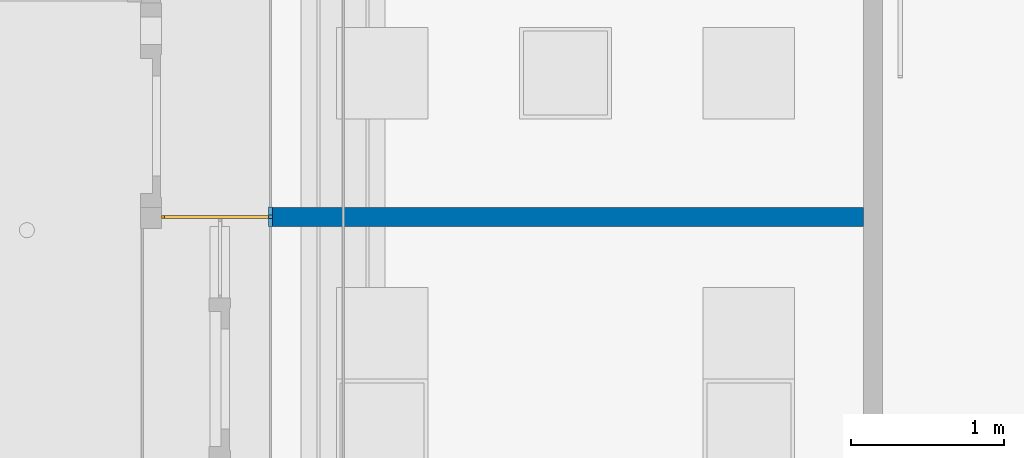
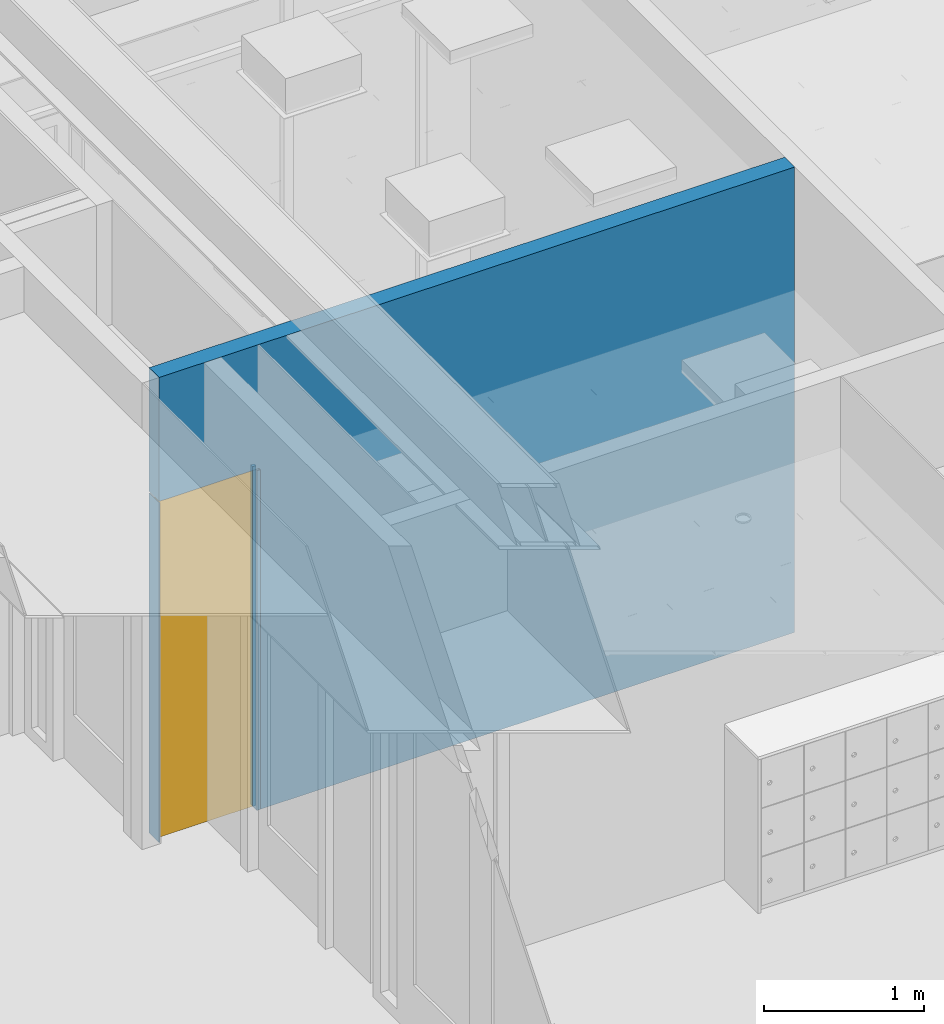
# One storey, part 67 of 347: 2 building element parts, 1 wall, 1 window, 2 openings, 1 element without a shape of its own.
"""IFC2X3 building model written with IfcOpenShell, lengths in millimetres."""

from ifc_helpers import new_model, entity, si_unit, converted_unit, derived_unit, money_unit, direction, frame, origin_with_axes, place, context, subcontext, project, spatial, open_shell, faceted_brep, surface_model, source, transform, mapped, material, type_object, type_shapes, element, fill, aggregate, save


model = new_model("IFC2X3")

# Units and contexts
model_context = context("Model", 3, precision=0.01, world=origin_with_axes(), true_north=direction((0.0, 1.0)))
plan_context = context("Plan", 3, precision=0.01, world=origin_with_axes(), true_north=direction((0.0, 1.0)))
body_context = subcontext(model_context, "Body", "Model", "MODEL_VIEW")
ifc_project = project(units=[si_unit("LENGTHUNIT", "METRE", prefix="MILLI"), si_unit("AREAUNIT", "SQUARE_METRE"), si_unit("VOLUMEUNIT", "CUBIC_METRE"), converted_unit("PLANEANGLEUNIT", "DEGREE", entity("IfcPlaneAngleMeasure", 0.0174532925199), si_unit("PLANEANGLEUNIT", "RADIAN"), dimensions=[0, 0, 0, 0, 0, 0, 0]), money_unit("EUR"), converted_unit("TIMEUNIT", "Year", entity("IfcTimeMeasure", 31556926.0), si_unit("TIMEUNIT", "SECOND"), dimensions=[0, 0, 1, 0, 0, 0, 0]), si_unit("MASSUNIT", "GRAM", prefix="KILO"), si_unit("THERMODYNAMICTEMPERATUREUNIT", "DEGREE_CELSIUS"), si_unit("LUMINOUSINTENSITYUNIT", "LUMEN"), si_unit("ENERGYUNIT", "JOULE", prefix="MEGA"), derived_unit("THERMALCONDUCTANCEUNIT", [(si_unit("POWERUNIT", "WATT"), 1), (si_unit("LENGTHUNIT", "METRE"), -1), (si_unit("THERMODYNAMICTEMPERATUREUNIT", "KELVIN"), -1)]), derived_unit("SPECIFICHEATCAPACITYUNIT", [(si_unit("ENERGYUNIT", "JOULE"), 1), (si_unit("MASSUNIT", "GRAM", prefix="KILO"), -1), (si_unit("THERMODYNAMICTEMPERATUREUNIT", "KELVIN"), -1)]), derived_unit("MASSDENSITYUNIT", [(si_unit("MASSUNIT", "GRAM", prefix="KILO"), 1), (si_unit("VOLUMEUNIT", "CUBIC_METRE"), -1)])], contexts=[model_context, plan_context])

# Site, building, storey
site_placement = place(None, origin_with_axes())
site = spatial("IfcSite", under=ifc_project, at=site_placement, Name="Site", CompositionType="ELEMENT")
building_placement = place(site_placement, origin_with_axes())
building = spatial("IfcBuilding", under=site, at=building_placement, Name="Naam gebouw", CompositionType="ELEMENT")
storey_placement = place(building_placement, origin_with_axes())
storey = spatial("IfcBuildingStorey", under=building, at=storey_placement, Name="begane grond", CompositionType="ELEMENT", Elevation=0.0)

# Wall, openings, windows, building element parts
ifc_material_1 = material(Name="ALG - LICHTE SCHEIDINGSWAND")
wall_type = type_object("IfcWallType", Name="ALG LSW 125 125", PredefinedType="NOTDEFINED")
wall_placement = place(storey_placement, frame((48075.0, 41087.5, 0.0), z_axis=(0.0, 0.0, 1.0), x_axis=(-1.0, 0.0, 0.0)))
wall = element("IfcWall", 1, at=wall_placement, inside=storey, type_object=wall_type, material=ifc_material_1, Name="22_GF 125 ECO DGS/2.75.2A", context=body_context, shape_type="Brep", body=[
    faceted_brep([(3994.0, -125.0, 0.0), (3994.0, -125.0, 2600.0), (3999.99996691, -125.0, 2600.0), (3999.99996691, -125.0, 2612.0), (4725.0000203, -125.0, 2612.0), (4725.0, -125.0, 3560.0), (125.0, -125.0, 3560.0), (125.0, -125.0, 0.0), (3994.0, 0.0, 2600.0), (3994.0, 0.0, 0.0), (3999.99996691, 0.0, 2600.0), (3999.99996691, 0.0, 2612.0), (4725.0000203, -1.95962215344e-05, 2612.0), (4725.0, 0.0, 3560.0), (125.0, 0.0, 3560.0), (125.0, 0.0, 0.0)], [[[0, 1, 2, 3, 4, 5, 6, 7]], [[8, 1, 0, 9]], [[10, 2, 1, 8]], [[3, 2, 10, 11]], [[4, 3, 11, 12]], [[4, 12, 13, 5]], [[6, 5, 13, 14]], [[14, 15, 7, 6]], [[9, 0, 7, 15]], [[13, 12, 11, 10, 8, 9, 15, 14]]]),
    faceted_brep([(4718.0, -1.94070182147e-05, 2600.0), (4718.0, -125.0, 2600.0), (4725.0000203, -125.0, 2600.0), (4725.0000203, -1.95962215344e-05, 2600.0), (4718.0, 0.0, 0.0), (4718.0, -125.0, 0.0), (4725.0, -125.0, 0.0), (4725.0, 0.0, 0.0)], [[[0, 1, 2, 3]], [[4, 5, 1, 0]], [[2, 1, 5, 6]], [[3, 2, 6, 7]], [[4, 0, 3, 7]], [[6, 5, 4, 7]]]),
])
opening_1_placement = place(wall_placement, frame((4356.0, 0.0, 0.0), z_axis=(0.0, 0.0, 1.0), x_axis=(1.0, 0.0, 0.0)))
opening_1 = element("IfcOpeningElement", 2, at=opening_1_placement, cuts=wall, Name="32_10.01", context=body_context, shape_type="Brep", body=[
    faceted_brep([(362.0, -250.0, 2600.0), (362.0, -250.0, 0.0), (362.0, -52.5, 0.0), (362.0, -52.5, 2600.0), (-362.0, -250.0, 2600.0), (-362.0, -250.0, 0.0), (-362.0, -52.5, 0.0), (-362.0, -52.5, 2600.0)], [[[0, 1, 2, 3]], [[0, 4, 5, 1]], [[1, 5, 6, 2]], [[3, 2, 6, 7]], [[4, 0, 3, 7]], [[5, 4, 7, 6]]]),
    faceted_brep([(362.0, 125.0, 0.0), (362.0, 125.0, 2600.0), (362.0, -52.5, 2600.0), (362.0, -52.5, 0.0), (-362.0, 125.0, 0.0), (-362.0, 125.0, 2600.0), (-362.0, -52.5, 2600.0), (-362.0, -52.5, 0.0)], [[[0, 1, 2, 3]], [[0, 4, 5, 1]], [[1, 5, 6, 2]], [[3, 2, 6, 7]], [[4, 0, 3, 7]], [[5, 4, 7, 6]]]),
])
opening_2_placement = place(wall_placement, frame((4006.5, 0.0, 0.0), z_axis=(0.0, 0.0, 1.0), x_axis=(1.0, 0.0, 0.0)))
opening_2 = element("IfcOpeningElement", 3, at=opening_2_placement, cuts=wall, Name="31_-", context=body_context, shape_type="Brep", body=[
    faceted_brep([(12.5, -250.0, 2600.0), (12.5, -250.0, 0.0), (12.5, -75.0, 0.0), (12.5, -75.0, 2600.0), (-12.5, -250.0, 2600.0), (-12.5, -250.0, 0.0), (-12.5, -75.0, 0.0), (-12.5, -75.0, 2600.0)], [[[0, 1, 2, 3]], [[0, 4, 5, 1]], [[1, 5, 6, 2]], [[3, 2, 6, 7]], [[4, 0, 3, 7]], [[5, 4, 7, 6]]]),
    faceted_brep([(12.5, 100.0, 0.0), (12.5, 100.0, 2600.0), (12.5, -75.0, 2600.0), (12.5, -75.0, 0.0), (-12.5, 100.0, 0.0), (-12.5, 100.0, 2600.0), (-12.5, -75.0, 2600.0), (-12.5, -75.0, 0.0)], [[[0, 1, 2, 3]], [[0, 4, 5, 1]], [[1, 5, 6, 2]], [[3, 2, 6, 7]], [[4, 0, 3, 7]], [[5, 4, 7, 6]]]),
])
window_style_1 = type_object("IfcWindowStyle", Name="R1 25", ConstructionType="NOTDEFINED", OperationType="SINGLE_PANEL", ParameterTakesPrecedence=False, Sizeable=False)
shared_shape_1 = source(origin_with_axes(), body_context, "Body", "SurfaceModel", [
    faceted_brep([(-342.0, -20.0, 2580.0), (-342.0, 0.0, 2580.0), (-362.0, 0.0, 2580.0), (-362.0, -20.0, 2580.0), (-342.0, -20.0, 20.0), (-342.0, 0.0, 20.0), (-362.0, 0.0, 20.0), (-362.0, -20.0, 20.0)], [[[0, 1, 2, 3]], [[4, 5, 1, 0]], [[1, 5, 6, 2]], [[3, 2, 6, 7]], [[0, 3, 7, 4]], [[7, 6, 5, 4]]]),
    faceted_brep([(342.0, -20.0, 20.0), (342.0, 0.0, 20.0), (362.0, 0.0, 20.0), (362.0, -20.0, 20.0), (342.0, -20.0, 2580.0), (342.0, 0.0, 2580.0), (362.0, 0.0, 2580.0), (362.0, -20.0, 2580.0)], [[[0, 1, 2, 3]], [[4, 5, 1, 0]], [[1, 5, 6, 2]], [[3, 2, 6, 7]], [[0, 3, 7, 4]], [[7, 6, 5, 4]]]),
    faceted_brep([(-342.0, -20.0, 20.0), (-342.0, 0.0, 20.0), (-362.0, 0.0, 20.0), (-362.0, -20.0, 20.0), (342.0, -20.0, 20.0), (342.0, 0.0, 20.0), (362.0, 0.0, 20.0), (362.0, 0.0, 0.0), (-362.0, 0.0, 0.0), (-362.0, -20.0, 0.0), (362.0, -20.0, 0.0), (362.0, -20.0, 20.0)], [[[0, 1, 2, 3]], [[4, 5, 1, 0]], [[1, 5, 6, 7, 8, 2]], [[3, 2, 8, 9]], [[0, 3, 9, 10, 11, 4]], [[11, 6, 5, 4]], [[10, 7, 6, 11]], [[9, 8, 7, 10]]]),
    faceted_brep([(342.0, -20.0, 2580.0), (342.0, 0.0, 2580.0), (362.0, 0.0, 2580.0), (362.0, -20.0, 2580.0), (-342.0, -20.0, 2580.0), (-342.0, 0.0, 2580.0), (-362.0, 0.0, 2580.0), (-362.0, 0.0, 2600.0), (362.0, 0.0, 2600.0), (362.0, -20.0, 2600.0), (-362.0, -20.0, 2600.0), (-362.0, -20.0, 2580.0)], [[[0, 1, 2, 3]], [[4, 5, 1, 0]], [[1, 5, 6, 7, 8, 2]], [[3, 2, 8, 9]], [[0, 3, 9, 10, 11, 4]], [[11, 6, 5, 4]], [[10, 7, 6, 11]], [[9, 8, 7, 10]]]),
    surface_model("IfcShellBasedSurfaceModel", [(-342.0, -20.0, 20.0), (342.0, -20.0, 20.0), (342.0, -20.0, 2580.0), (-342.0, -20.0, 2580.0)], [open_shell([[[0, 1, 2, 3]]])]),
    surface_model("IfcShellBasedSurfaceModel", [(-342.0, 0.0, 20.0), (-342.0, 0.0, 2580.0), (342.0, 0.0, 2580.0), (342.0, 0.0, 20.0)], [open_shell([[[0, 1, 2, 3]]])]),
])
type_shapes(window_style_1, [shared_shape_1])
window_1_placement = place(opening_1_placement, frame((-362.0, 0.0, 0.0), z_axis=(0.0, 0.0, 1.0), x_axis=(1.0, 0.0, 0.0)))
window_1 = element("IfcWindow", 4, at=window_1_placement, inside=storey, type_object=window_style_1, Name="32_10.01", ObjectType="WINDOW", OverallHeight=2600.0, OverallWidth=724.0, context=body_context, shape_type="MappedRepresentation", body=[
    mapped(shared_shape_1, transform((362.0, -52.5, 0.0))),
])
fill(opening_1, window_1)
window_style_2 = type_object("IfcWindowStyle", Name="32 glaslatten 125mm wand", ConstructionType="NOTDEFINED", OperationType="NOTDEFINED", ParameterTakesPrecedence=False, Sizeable=False)
window_2_placement = place(opening_2_placement, frame((12.5, 0.0, 0.0), z_axis=(0.0, 0.0, 1.0), x_axis=(-1.0, 0.0, 0.0)))
window_2 = element("IfcWindow", 5, at=window_2_placement, inside=storey, type_object=window_style_2, Name="31_-", ObjectType="WINDOW", OverallHeight=2600.0, OverallWidth=25.0)
fill(opening_2, window_2)
ifc_material_2 = material(Name="32 Hout binnenkozijn")
shared_shape_2 = source(origin_with_axes(), body_context, "Body", "Brep", [
    faceted_brep([(-12.5, -77.0, 2600.0), (-12.5, -77.0, 0.0), (12.5, -77.0, 0.0), (12.5, -77.0, 2600.0), (-12.5, -25.0, 2600.0), (-12.5, -25.0, 0.0), (12.5, -25.0, 0.0), (12.5, -25.0, 2600.0)], [[[0, 1, 2, 3]], [[4, 5, 1, 0]], [[1, 5, 6, 2]], [[3, 2, 6, 7]], [[0, 3, 7, 4]], [[7, 6, 5, 4]]]),
    faceted_brep([(-12.5, 0.0, 2600.0), (-12.5, 0.0, 0.0), (12.5, 0.0, 0.0), (12.5, 0.0, 2600.0), (-12.5, 52.0, 2600.0), (-12.5, 52.0, 0.0), (12.5, 52.0, 0.0), (12.5, 52.0, 2600.0)], [[[0, 1, 2, 3]], [[4, 5, 1, 0]], [[1, 5, 6, 2]], [[3, 2, 6, 7]], [[0, 3, 7, 4]], [[7, 6, 5, 4]]]),
])
building_element_part_1_placement = place(window_2_placement, origin_with_axes())
building_element_part_1 = element("IfcBuildingElementPart", 6, at=building_element_part_1_placement, material=ifc_material_2, Name="32 Hout binnenkozijn", context=body_context, shape_type="MappedRepresentation", body=[
    mapped(shared_shape_2, transform((12.5, 75.0, 0.0))),
])
ifc_material_3 = material(Name="Membraan - rubber")
shared_shape_3 = source(origin_with_axes(), body_context, "Body", "Brep", [
    faceted_brep([(-12.5, -25.0, 2600.0), (-12.5, -25.0, 0.0), (12.5, -25.0, 0.0), (12.5, -25.0, 2600.0), (-12.5, 0.0, 2600.0), (-12.5, 0.0, 0.0), (12.5, 0.0, 0.0), (12.5, 0.0, 2600.0)], [[[0, 1, 2, 3]], [[4, 5, 1, 0]], [[1, 5, 6, 2]], [[3, 2, 6, 7]], [[0, 3, 7, 4]], [[7, 6, 5, 4]]]),
])
building_element_part_2_placement = place(window_2_placement, origin_with_axes())
building_element_part_2 = element("IfcBuildingElementPart", 7, at=building_element_part_2_placement, material=ifc_material_3, Name="Membraan - rubber", context=body_context, shape_type="MappedRepresentation", body=[
    mapped(shared_shape_3, transform((12.5, 75.0, 0.0))),
])
aggregate(window_2, [building_element_part_1, building_element_part_2])

save(model, "model.ifc")
